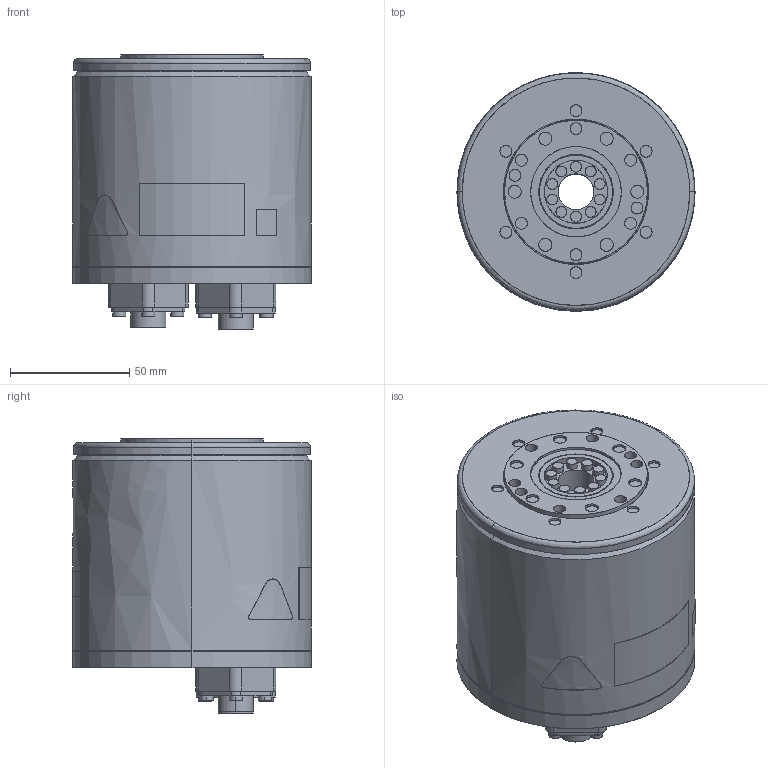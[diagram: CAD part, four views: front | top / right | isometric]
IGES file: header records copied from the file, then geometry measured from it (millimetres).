
Start section: SolidWorks IGES file using analytic representation for surfaces
Bounding box: 100 x 100.2 x 115.1 mm (x, y, z)
Surface area: 58069.6 mm2 (no closed solid volume)
Topology: 0 solids, 0 shells, 348 faces, 6909 edges, 6909 vertices
Faces by surface type: revolution 195, bspline 153
